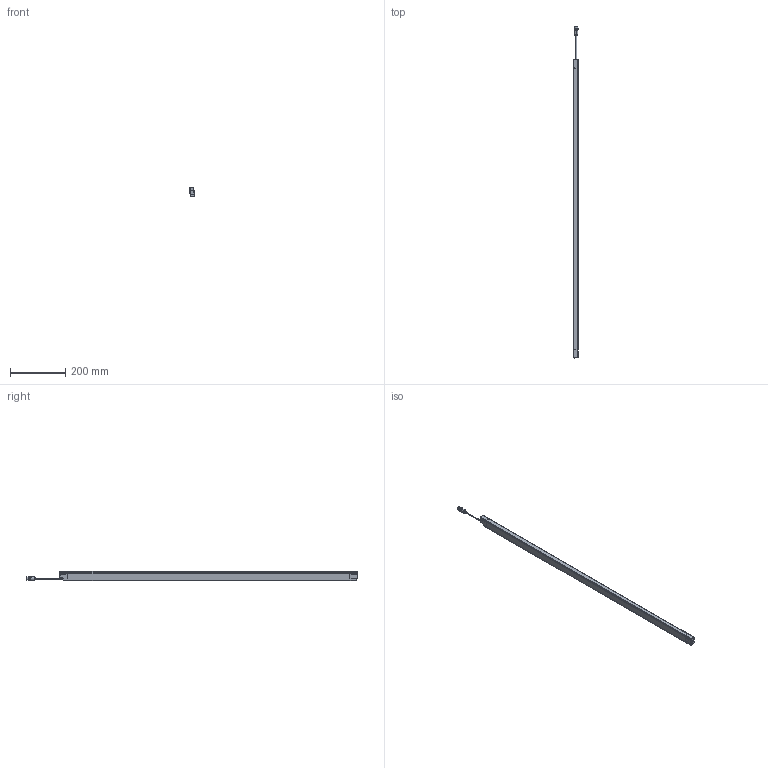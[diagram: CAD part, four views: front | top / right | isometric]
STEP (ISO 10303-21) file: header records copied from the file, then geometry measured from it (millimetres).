
FILE_DESCRIPTION((''),'2;1');
FILE_NAME('2023838','2017-01-19T',('smayer'),(''),'PRO/ENGINEER BY PARAMETRIC TECHNOLOGY CORPORATION, 2015110','PRO/ENGINEER BY PARAMETRIC TECHNOLOGY CORPORATION, 2015110','');
FILE_SCHEMA(('AUTOMOTIVE_DESIGN { 1 0 10303 214 1 1 1 1 }'));
Length unit declared in the file: millimetre
Products named in the file (1): 2023838
Bounding box: 17.36 x 1200.24 x 33.49 mm (x, y, z)
Surface area: 107689 mm2 (no closed solid volume)
Topology: 0 solids, 91 shells, 227 faces, 1399 edges, 1235 vertices
Faces by surface type: plane 102, cylinder 82, cone 16, torus 12, bspline 11, sphere 4
Entity records: 21464 total; most frequent: CARTESIAN_POINT 5560, DIRECTION 1868, PRESENTATION_STYLE_ASSIGNMENT 1645, ORIENTED_EDGE 1593, STYLED_ITEM 1418, CURVE_STYLE 1396, EDGE_CURVE 1395, VERTEX_POINT 1235
